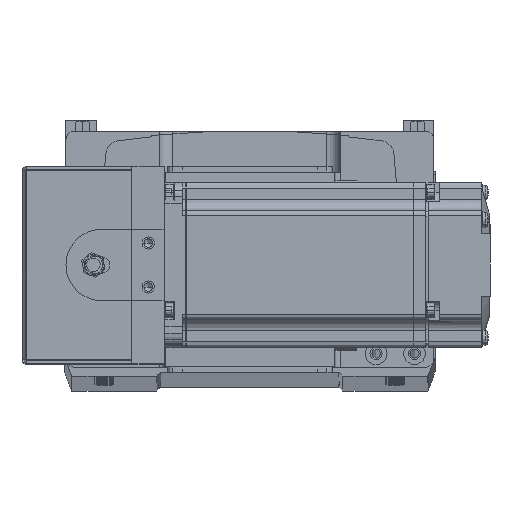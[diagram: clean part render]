
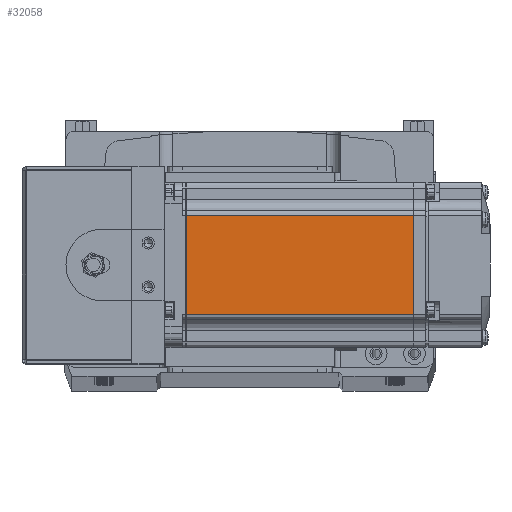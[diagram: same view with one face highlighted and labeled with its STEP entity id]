
A CAD part, top view. The second image highlights one B-rep face of the part: STEP entity #32058.
In plain terms, the highlighted planar face has unit normal (0, 0, 1) as drawn and (0, 1, 0) by its records, which use the part's own axes.
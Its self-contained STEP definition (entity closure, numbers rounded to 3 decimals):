
#1538 = FACE_OUTER_BOUND ( 'NONE', #2518, .T. ) ;
#2518 = EDGE_LOOP ( 'NONE', ( #29601, #41738, #19463, #8343 ) ) ;
#3045 = LINE ( 'NONE', #13654, #11498 ) ;
#3351 = CARTESIAN_POINT ( 'NONE',  ( -7.75, 30., -18. ) ) ;
#4524 = EDGE_CURVE ( 'NONE', #27845, #37788, #3045, .T. ) ;
#5190 = DIRECTION ( 'NONE',  ( 0., 0., 1. ) ) ;
#6645 = LINE ( 'NONE', #17050, #13127 ) ;
#6794 = EDGE_CURVE ( 'NONE', #36771, #37788, #36702, .T. ) ;
#7139 = DIRECTION ( 'NONE',  ( -1., 0., 0. ) ) ;
#8343 = ORIENTED_EDGE ( 'NONE', *, *, #4524, .T. ) ;
#9067 = EDGE_CURVE ( 'NONE', #36771, #37956, #21426, .T. ) ;
#9433 = DIRECTION ( 'NONE',  ( 0., 0., 1. ) ) ;
#10512 = CARTESIAN_POINT ( 'NONE',  ( -6.5, 30., -18. ) ) ;
#10680 = AXIS2_PLACEMENT_3D ( 'NONE', #26461, #26031, #5190 ) ;
#11498 = VECTOR ( 'NONE', #16622, 1000. ) ;
#13127 = VECTOR ( 'NONE', #34335, 1000. ) ;
#13654 = CARTESIAN_POINT ( 'NONE',  ( -6.5, 30., 18. ) ) ;
#16622 = DIRECTION ( 'NONE',  ( 1., 0., 0. ) ) ;
#17050 = CARTESIAN_POINT ( 'NONE',  ( -90.45, 30., 0. ) ) ;
#18310 = VECTOR ( 'NONE', #9433, 1000. ) ;
#19440 = CARTESIAN_POINT ( 'NONE',  ( -7.75, 30., 0. ) ) ;
#19463 = ORIENTED_EDGE ( 'NONE', *, *, #38890, .T. ) ;
#20354 = CARTESIAN_POINT ( 'NONE',  ( -90.45, 30., -18. ) ) ;
#21426 = LINE ( 'NONE', #10512, #28580 ) ;
#26031 = DIRECTION ( 'NONE',  ( 0., 1., 0. ) ) ;
#26461 = CARTESIAN_POINT ( 'NONE',  ( -6.5, 30., 25. ) ) ;
#27845 = VERTEX_POINT ( 'NONE', #36593 ) ;
#28580 = VECTOR ( 'NONE', #7139, 1000. ) ;
#29203 = PLANE ( 'NONE',  #10680 ) ;
#29468 = CARTESIAN_POINT ( 'NONE',  ( -7.75, 30., 18. ) ) ;
#29601 = ORIENTED_EDGE ( 'NONE', *, *, #6794, .F. ) ;
#32058 = ADVANCED_FACE ( 'NONE', ( #1538 ), #29203, .T. ) ;
#34335 = DIRECTION ( 'NONE',  ( 0., 0., 1. ) ) ;
#36593 = CARTESIAN_POINT ( 'NONE',  ( -90.45, 30., 18. ) ) ;
#36702 = LINE ( 'NONE', #19440, #18310 ) ;
#36771 = VERTEX_POINT ( 'NONE', #3351 ) ;
#37788 = VERTEX_POINT ( 'NONE', #29468 ) ;
#37956 = VERTEX_POINT ( 'NONE', #20354 ) ;
#38890 = EDGE_CURVE ( 'NONE', #37956, #27845, #6645, .T. ) ;
#41738 = ORIENTED_EDGE ( 'NONE', *, *, #9067, .T. ) ;
